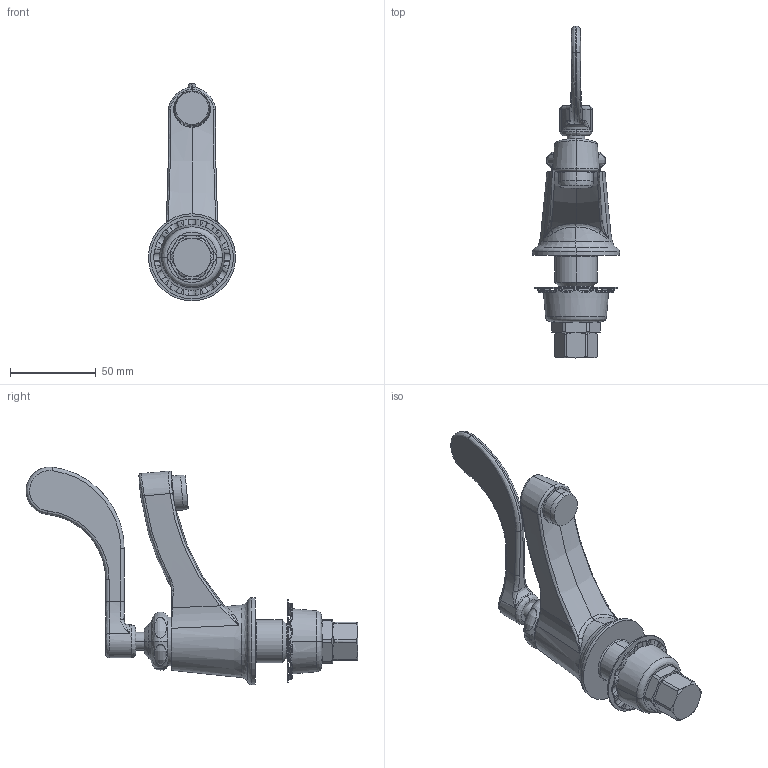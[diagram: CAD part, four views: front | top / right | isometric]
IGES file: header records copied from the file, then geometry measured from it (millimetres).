
Start section:  PTC IGES file: 730-317AB_SCHEDULE_REV071217.igs
Global section: file name: 730-317AB_SCHEDULE_REV071217.igs; native system: Creo Parametric by PTC Inc.; preprocessor: 2014500; author: dmisv; organization: Unknown; date: 20170712.114422; units: inch
Bounding box: 50.8 x 193.52 x 127 mm (x, y, z)
Surface area: 45283.4 mm2 (no closed solid volume)
Topology: 0 solids, 19 shells, 339 faces, 983 edges, 638 vertices
Faces by surface type: revolution 227, bspline 112
